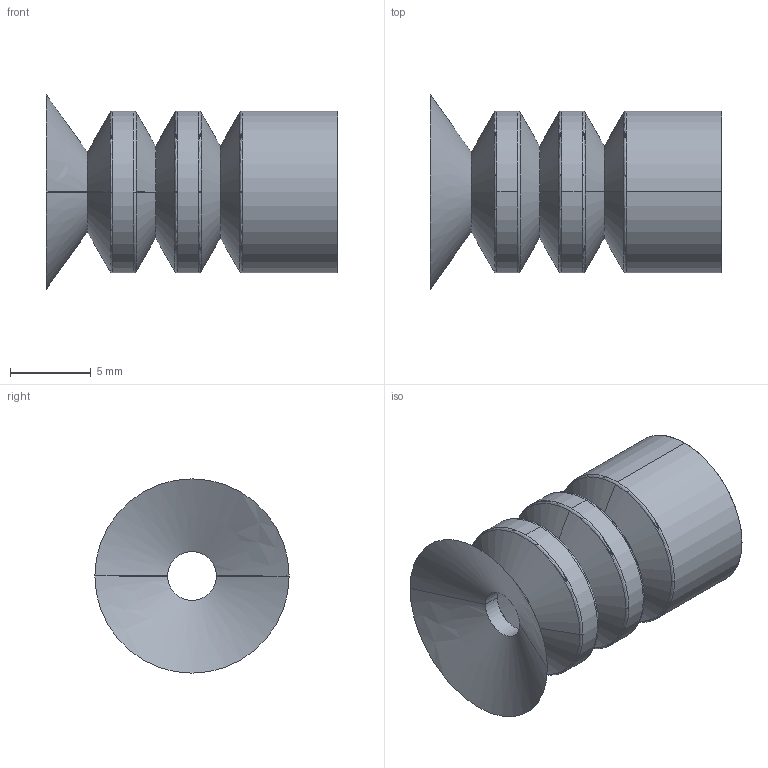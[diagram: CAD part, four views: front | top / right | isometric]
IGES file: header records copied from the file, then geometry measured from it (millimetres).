
Start section: SolidWorks IGES file using analytic representation for surfaces
Global section: file name: C:\Documents and Settings\CAD53\デスクトップ\パット変更\196397.IGS; native system: SolidWorks 2006 by SolidWorks Corporation; preprocessor: SolidWorks 2006 by SolidWorks Corporation; author: CAD53; date: 071220.175124; units: millimetre
Bounding box: 18 x 12 x 12 mm (x, y, z)
Surface area: 1306.3 mm2 (no closed solid volume)
Topology: 0 solids, 0 shells, 59 faces, 468 edges, 468 vertices
Faces by surface type: revolution 46, bspline 13
